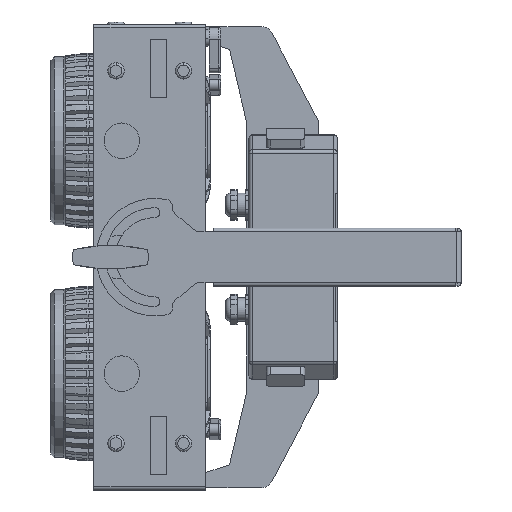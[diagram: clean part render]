
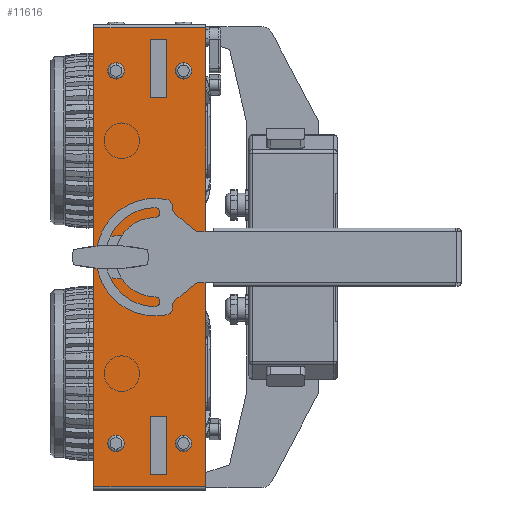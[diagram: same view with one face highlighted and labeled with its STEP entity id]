
A CAD part, front view. The second image highlights one B-rep face of the part: STEP entity #11616.
In plain terms, the highlighted planar face has unit normal (0, -1, 0).
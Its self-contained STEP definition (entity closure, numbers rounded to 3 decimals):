
#1504=DIRECTION('',(0.,0.,1.));
#1505=VECTOR('',#1504,394.);
#1506=CARTESIAN_POINT('',(96.,0.,-197.));
#1507=LINE('',#1506,#1505);
#2791=DIRECTION('',(-1.,0.,0.));
#2792=VECTOR('',#2791,96.);
#2793=CARTESIAN_POINT('',(96.,0.,-197.));
#2794=LINE('',#2793,#2792);
#2795=DIRECTION('',(1.,0.,0.));
#2796=VECTOR('',#2795,96.);
#2797=CARTESIAN_POINT('',(0.,0.,197.));
#2798=LINE('',#2797,#2796);
#2799=CARTESIAN_POINT('',(69.,0.,0.));
#2800=DIRECTION('',(0.,1.,0.));
#2801=DIRECTION('',(0.,0.,-1.));
#2802=AXIS2_PLACEMENT_3D('',#2799,#2800,#2801);
#2804=CARTESIAN_POINT('',(69.,0.,0.));
#2805=DIRECTION('',(0.,1.,0.));
#2806=DIRECTION('',(0.,0.,1.));
#2807=AXIS2_PLACEMENT_3D('',#2804,#2805,#2806);
#2809=CARTESIAN_POINT('',(36.,0.,0.));
#2810=DIRECTION('',(0.,1.,0.));
#2811=DIRECTION('',(0.,0.,-1.));
#2812=AXIS2_PLACEMENT_3D('',#2809,#2810,#2811);
#2814=CARTESIAN_POINT('',(36.,0.,0.));
#2815=DIRECTION('',(0.,1.,0.));
#2816=DIRECTION('',(0.,0.,1.));
#2817=AXIS2_PLACEMENT_3D('',#2814,#2815,#2816);
#2819=CARTESIAN_POINT('',(77.,0.,160.));
#2820=DIRECTION('',(0.,-1.,0.));
#2821=DIRECTION('',(0.,0.,-1.));
#2822=AXIS2_PLACEMENT_3D('',#2819,#2820,#2821);
#2824=CARTESIAN_POINT('',(77.,0.,160.));
#2825=DIRECTION('',(0.,-1.,0.));
#2826=DIRECTION('',(0.,0.,1.));
#2827=AXIS2_PLACEMENT_3D('',#2824,#2825,#2826);
#2829=CARTESIAN_POINT('',(19.,0.,160.));
#2830=DIRECTION('',(0.,-1.,0.));
#2831=DIRECTION('',(0.,0.,-1.));
#2832=AXIS2_PLACEMENT_3D('',#2829,#2830,#2831);
#2834=CARTESIAN_POINT('',(19.,0.,160.));
#2835=DIRECTION('',(0.,-1.,0.));
#2836=DIRECTION('',(0.,0.,1.));
#2837=AXIS2_PLACEMENT_3D('',#2834,#2835,#2836);
#2839=CARTESIAN_POINT('',(77.,0.,-160.));
#2840=DIRECTION('',(0.,-1.,0.));
#2841=DIRECTION('',(0.,0.,-1.));
#2842=AXIS2_PLACEMENT_3D('',#2839,#2840,#2841);
#2844=CARTESIAN_POINT('',(77.,0.,-160.));
#2845=DIRECTION('',(0.,-1.,0.));
#2846=DIRECTION('',(0.,0.,1.));
#2847=AXIS2_PLACEMENT_3D('',#2844,#2845,#2846);
#2849=CARTESIAN_POINT('',(19.,0.,-160.));
#2850=DIRECTION('',(0.,-1.,0.));
#2851=DIRECTION('',(0.,0.,-1.));
#2852=AXIS2_PLACEMENT_3D('',#2849,#2850,#2851);
#2854=CARTESIAN_POINT('',(19.,0.,-160.));
#2855=DIRECTION('',(0.,-1.,0.));
#2856=DIRECTION('',(0.,0.,1.));
#2857=AXIS2_PLACEMENT_3D('',#2854,#2855,#2856);
#2859=DIRECTION('',(1.,0.,0.));
#2860=VECTOR('',#2859,14.);
#2861=CARTESIAN_POINT('',(48.5,0.,187.));
#2862=LINE('',#2861,#2860);
#2871=DIRECTION('',(0.,0.,-1.));
#2872=VECTOR('',#2871,50.);
#2873=CARTESIAN_POINT('',(62.5,0.,187.));
#2874=LINE('',#2873,#2872);
#2879=DIRECTION('',(-1.,0.,0.));
#2880=VECTOR('',#2879,14.);
#2881=CARTESIAN_POINT('',(62.5,0.,137.));
#2882=LINE('',#2881,#2880);
#2887=DIRECTION('',(0.,0.,1.));
#2888=VECTOR('',#2887,50.);
#2889=CARTESIAN_POINT('',(48.5,0.,137.));
#2890=LINE('',#2889,#2888);
#2911=DIRECTION('',(1.,0.,0.));
#2912=VECTOR('',#2911,14.);
#2913=CARTESIAN_POINT('',(48.5,0.,-187.));
#2914=LINE('',#2913,#2912);
#2919=DIRECTION('',(0.,0.,-1.));
#2920=VECTOR('',#2919,50.);
#2921=CARTESIAN_POINT('',(48.5,0.,-137.));
#2922=LINE('',#2921,#2920);
#2923=DIRECTION('',(-1.,0.,0.));
#2924=VECTOR('',#2923,14.);
#2925=CARTESIAN_POINT('',(62.5,0.,-137.));
#2926=LINE('',#2925,#2924);
#2935=DIRECTION('',(0.,0.,1.));
#2936=VECTOR('',#2935,50.);
#2937=CARTESIAN_POINT('',(62.5,0.,-187.));
#2938=LINE('',#2937,#2936);
#3019=DIRECTION('',(0.,0.,1.));
#3020=VECTOR('',#3019,394.);
#3021=CARTESIAN_POINT('',(0.,0.,-197.));
#3022=LINE('',#3021,#3020);
#7446=CARTESIAN_POINT('',(48.5,0.,187.));
#7447=CARTESIAN_POINT('',(62.5,0.,187.));
#7448=VERTEX_POINT('',#7446);
#7449=VERTEX_POINT('',#7447);
#7450=CARTESIAN_POINT('',(62.5,0.,137.));
#7451=VERTEX_POINT('',#7450);
#7452=CARTESIAN_POINT('',(48.5,0.,137.));
#7453=VERTEX_POINT('',#7452);
#7454=CARTESIAN_POINT('',(48.5,0.,-187.));
#7455=CARTESIAN_POINT('',(62.5,0.,-187.));
#7456=VERTEX_POINT('',#7454);
#7457=VERTEX_POINT('',#7455);
#7458=CARTESIAN_POINT('',(62.5,0.,-137.));
#7459=VERTEX_POINT('',#7458);
#7460=CARTESIAN_POINT('',(48.5,0.,-137.));
#7461=VERTEX_POINT('',#7460);
#7515=CARTESIAN_POINT('',(0.,0.,-197.));
#7517=VERTEX_POINT('',#7515);
#7518=CARTESIAN_POINT('',(96.,0.,-197.));
#7519=VERTEX_POINT('',#7518);
#7523=CARTESIAN_POINT('',(96.,0.,197.));
#7525=VERTEX_POINT('',#7523);
#7526=CARTESIAN_POINT('',(0.,0.,197.));
#7527=VERTEX_POINT('',#7526);
#7586=CARTESIAN_POINT('',(69.,0.,-5.));
#7587=CARTESIAN_POINT('',(69.,0.,5.));
#7588=VERTEX_POINT('',#7586);
#7589=VERTEX_POINT('',#7587);
#7590=CARTESIAN_POINT('',(36.,0.,-5.));
#7591=CARTESIAN_POINT('',(36.,0.,5.));
#7592=VERTEX_POINT('',#7590);
#7593=VERTEX_POINT('',#7591);
#7606=CARTESIAN_POINT('',(77.,0.,153.));
#7607=CARTESIAN_POINT('',(77.,0.,167.));
#7608=VERTEX_POINT('',#7606);
#7609=VERTEX_POINT('',#7607);
#7614=CARTESIAN_POINT('',(19.,0.,153.));
#7615=CARTESIAN_POINT('',(19.,0.,167.));
#7616=VERTEX_POINT('',#7614);
#7617=VERTEX_POINT('',#7615);
#7622=CARTESIAN_POINT('',(77.,0.,-167.));
#7623=CARTESIAN_POINT('',(77.,0.,-153.));
#7624=VERTEX_POINT('',#7622);
#7625=VERTEX_POINT('',#7623);
#7630=CARTESIAN_POINT('',(19.,0.,-167.));
#7631=CARTESIAN_POINT('',(19.,0.,-153.));
#7632=VERTEX_POINT('',#7630);
#7633=VERTEX_POINT('',#7631);
#11547=CARTESIAN_POINT('',(94.,0.,-198.));
#11548=DIRECTION('',(0.,1.,0.));
#11549=DIRECTION('',(0.,0.,1.));
#11550=AXIS2_PLACEMENT_3D('',#11547,#11548,#11549);
#11551=PLANE('',#11550);
#11553=ORIENTED_EDGE('',*,*,#11552,.T.);
#11555=ORIENTED_EDGE('',*,*,#11554,.T.);
#11556=ORIENTED_EDGE('',*,*,#11539,.T.);
#11557=ORIENTED_EDGE('',*,*,#9692,.F.);
#11558=EDGE_LOOP('',(#11553,#11555,#11556,#11557));
#11559=FACE_OUTER_BOUND('',#11558,.F.);
#11561=ORIENTED_EDGE('',*,*,#11560,.T.);
#11563=ORIENTED_EDGE('',*,*,#11562,.T.);
#11565=ORIENTED_EDGE('',*,*,#11564,.T.);
#11567=ORIENTED_EDGE('',*,*,#11566,.T.);
#11568=EDGE_LOOP('',(#11561,#11563,#11565,#11567));
#11569=FACE_BOUND('',#11568,.F.);
#11571=ORIENTED_EDGE('',*,*,#11570,.F.);
#11573=ORIENTED_EDGE('',*,*,#11572,.F.);
#11575=ORIENTED_EDGE('',*,*,#11574,.F.);
#11577=ORIENTED_EDGE('',*,*,#11576,.F.);
#11578=EDGE_LOOP('',(#11571,#11573,#11575,#11577));
#11579=FACE_BOUND('',#11578,.F.);
#11581=ORIENTED_EDGE('',*,*,#11580,.F.);
#11583=ORIENTED_EDGE('',*,*,#11582,.F.);
#11584=EDGE_LOOP('',(#11581,#11583));
#11585=FACE_BOUND('',#11584,.F.);
#11587=ORIENTED_EDGE('',*,*,#11586,.F.);
#11589=ORIENTED_EDGE('',*,*,#11588,.F.);
#11590=EDGE_LOOP('',(#11587,#11589));
#11591=FACE_BOUND('',#11590,.F.);
#11593=ORIENTED_EDGE('',*,*,#11592,.T.);
#11595=ORIENTED_EDGE('',*,*,#11594,.T.);
#11596=EDGE_LOOP('',(#11593,#11595));
#11597=FACE_BOUND('',#11596,.F.);
#11599=ORIENTED_EDGE('',*,*,#11598,.T.);
#11601=ORIENTED_EDGE('',*,*,#11600,.T.);
#11602=EDGE_LOOP('',(#11599,#11601));
#11603=FACE_BOUND('',#11602,.F.);
#11605=ORIENTED_EDGE('',*,*,#11604,.T.);
#11607=ORIENTED_EDGE('',*,*,#11606,.T.);
#11608=EDGE_LOOP('',(#11605,#11607));
#11609=FACE_BOUND('',#11608,.F.);
#11611=ORIENTED_EDGE('',*,*,#11610,.T.);
#11613=ORIENTED_EDGE('',*,*,#11612,.T.);
#11614=EDGE_LOOP('',(#11611,#11613));
#11615=FACE_BOUND('',#11614,.F.);
#2803=CIRCLE('',#2802,5.);
#2808=CIRCLE('',#2807,5.);
#2813=CIRCLE('',#2812,5.);
#2818=CIRCLE('',#2817,5.);
#2823=CIRCLE('',#2822,7.);
#2828=CIRCLE('',#2827,7.);
#2833=CIRCLE('',#2832,7.);
#2838=CIRCLE('',#2837,7.);
#2843=CIRCLE('',#2842,7.);
#2848=CIRCLE('',#2847,7.);
#2853=CIRCLE('',#2852,7.);
#2858=CIRCLE('',#2857,7.);
#9692=EDGE_CURVE('',#7519,#7525,#1507,.T.);
#11539=EDGE_CURVE('',#7527,#7525,#2798,.T.);
#11552=EDGE_CURVE('',#7519,#7517,#2794,.T.);
#11554=EDGE_CURVE('',#7517,#7527,#3022,.T.);
#11560=EDGE_CURVE('',#7456,#7457,#2914,.T.);
#11562=EDGE_CURVE('',#7457,#7459,#2938,.T.);
#11564=EDGE_CURVE('',#7459,#7461,#2926,.T.);
#11566=EDGE_CURVE('',#7461,#7456,#2922,.T.);
#11570=EDGE_CURVE('',#7448,#7449,#2862,.T.);
#11572=EDGE_CURVE('',#7453,#7448,#2890,.T.);
#11574=EDGE_CURVE('',#7451,#7453,#2882,.T.);
#11576=EDGE_CURVE('',#7449,#7451,#2874,.T.);
#11580=EDGE_CURVE('',#7588,#7589,#2803,.T.);
#11582=EDGE_CURVE('',#7589,#7588,#2808,.T.);
#11586=EDGE_CURVE('',#7592,#7593,#2813,.T.);
#11588=EDGE_CURVE('',#7593,#7592,#2818,.T.);
#11592=EDGE_CURVE('',#7608,#7609,#2823,.T.);
#11594=EDGE_CURVE('',#7609,#7608,#2828,.T.);
#11598=EDGE_CURVE('',#7616,#7617,#2833,.T.);
#11600=EDGE_CURVE('',#7617,#7616,#2838,.T.);
#11604=EDGE_CURVE('',#7624,#7625,#2843,.T.);
#11606=EDGE_CURVE('',#7625,#7624,#2848,.T.);
#11610=EDGE_CURVE('',#7632,#7633,#2853,.T.);
#11612=EDGE_CURVE('',#7633,#7632,#2858,.T.);
#11616=ADVANCED_FACE('',(#11559,#11569,#11579,#11585,#11591,#11597,#11603,
#11609,#11615),#11551,.F.);
